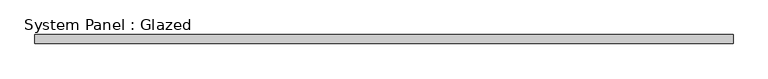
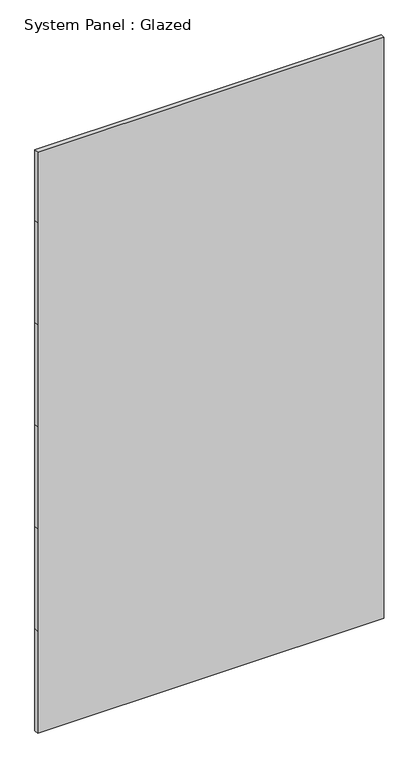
"""IFC4 building model written with IfcOpenShell, lengths in millimetres: plate geometry, System Panel : Glazed."""

from ifc_helpers import new_model, si_unit, frame, origin, place, context, project, spatial, polyline, outline, extrude, source, transform, mapped, element, save


def system_panel_glazed_4b4da262(model_context):
    return source(origin(), model_context, "Body", "SweptSolid", [
        extrude(outline(polyline([(0.0, -977.9), (0.0, 977.9), (609.6, 977.9), (1219.2, 977.9), (1828.8, 977.9), (2438.4, 977.9), (3048.0, 977.9), (3469.7473635, 977.9), (3469.7473635, -977.9), (3048.0, -977.9), (2438.4, -977.9), (1828.8, -977.9), (1219.2, -977.9), (609.6, -977.9), (0.0, -977.9)])), frame((0.0, 19.05, 0.0), z_axis=(0.0, 1.0, 0.0), x_axis=(0.0, 0.0, 1.0)), (0.0, 0.0, 1.0), 25.4),
    ])


if __name__ == "__main__":
    model = new_model("IFC4")
    model_context = context("Model", 3, world=origin())
    ifc_project = project(units=[si_unit("LENGTHUNIT", "METRE", prefix="MILLI")], contexts=[model_context])
    site = spatial("IfcSite", under=ifc_project)
    building = spatial("IfcBuilding", under=site)
    placement = place(None, origin())
    system_panel_glazed_shape = system_panel_glazed_4b4da262(model_context)
    element("IfcPlate", 1, ObjectType="System Panel : Glazed", at=placement, inside=building, context=model_context, shape_type="MappedRepresentation", body=[
        mapped(system_panel_glazed_shape, transform((0.0, 0.0, 0.0), x_axis=(1.0, 0.0, 0.0), y_axis=(0.0, 1.0, 0.0), z_axis=(0.0, 0.0, 1.0))),
    ])
    save(model, "model.ifc")
